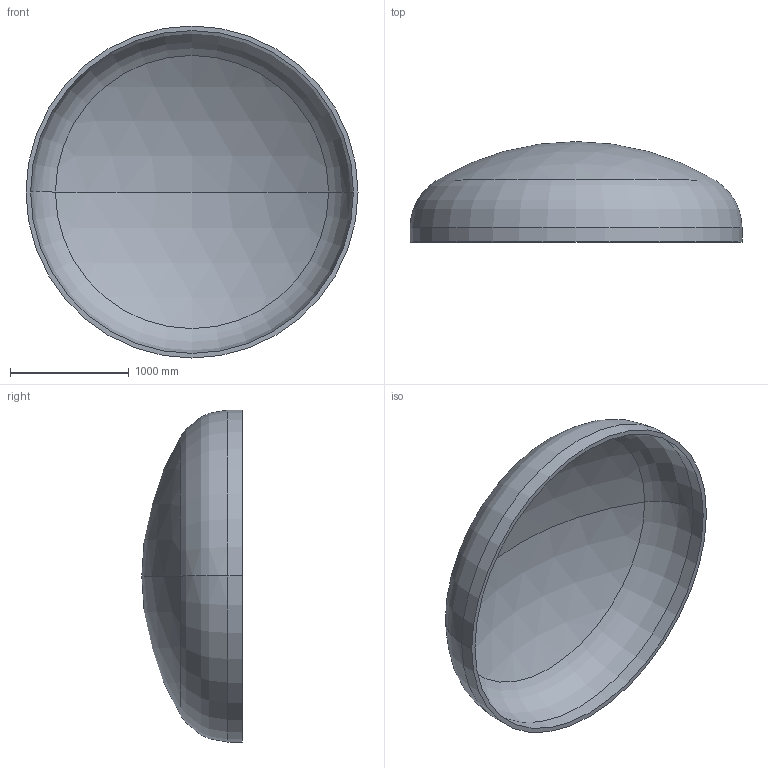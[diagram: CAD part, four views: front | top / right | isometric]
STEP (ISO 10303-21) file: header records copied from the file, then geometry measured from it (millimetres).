
FILE_DESCRIPTION (( 'STEP AP203' ), '1' );
FILE_NAME ('DIN 28013 Korbbogenform_-_Boden DIN 28013 - 2800 x 120 - I - s=39.step', '2016-07-01T16:57:27', ( '' ), ( '' ), 'SwSTEP 2.0', 'SolidWorks 2013', '' );
FILE_SCHEMA (( 'CONFIG_CONTROL_DESIGN' ));
Length unit declared in the file: millimetre
Products named in the file (1): DIN 28013 Korbbogenform_-_Boden DIN 28013 - 2800 x 120 - I - s=39
Bounding box: 2800 x 846.8 x 2800 mm (x, y, z)
Volume: 366945123.7 mm3; surface area: 19159161.2 mm2
Topology: 1 solids, 1 shells, 13 faces, 24 edges, 14 vertices
Faces by surface type: torus 4, cylinder 4, sphere 4, plane 1
Entity records: 407 total; most frequent: DIRECTION 72, CARTESIAN_POINT 52, ORIENTED_EDGE 48, AXIS2_PLACEMENT_3D 34, EDGE_CURVE 24, CIRCLE 20, VERTEX_POINT 14, EDGE_LOOP 14
